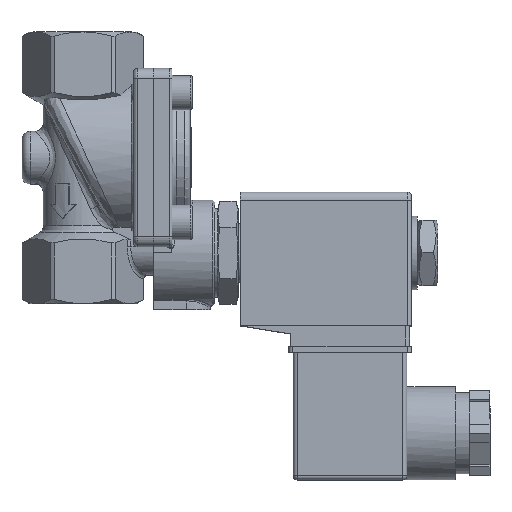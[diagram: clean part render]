
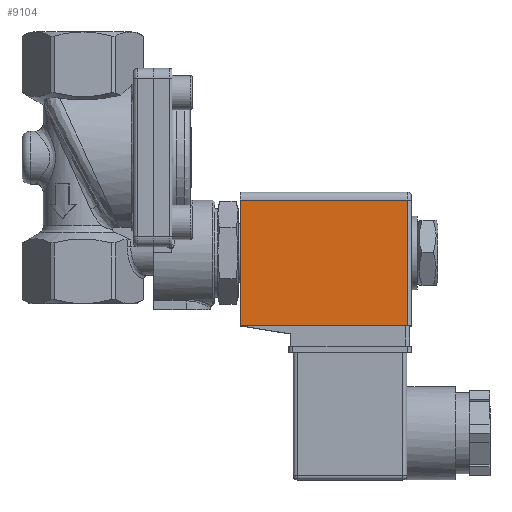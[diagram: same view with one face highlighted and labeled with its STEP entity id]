
A CAD part, top view. The second image highlights one B-rep face of the part: STEP entity #9104.
In plain terms, the highlighted planar face has unit normal (0, 0, 1) as drawn and (0, -1, 0) by its records, which use the part's own axes.
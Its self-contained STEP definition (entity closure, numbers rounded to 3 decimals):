
#8787=CARTESIAN_POINT('',(18.,-14.5,41.3));
#8788=VERTEX_POINT('',#8787);
#8806=CARTESIAN_POINT('',(-13.,-14.5,41.3));
#8807=VERTEX_POINT('',#8806);
#8815=CARTESIAN_POINT('',(-13.,-14.5,41.3));
#8816=DIRECTION('',(1.0,0.0,0.0));
#8817=VECTOR('',#8816,31.0);
#8818=LINE('',#8815,#8817);
#8819=EDGE_CURVE('',#8807,#8788,#8818,.T.);
#9074=CARTESIAN_POINT('',(18.,-14.5,0.0));
#9075=DIRECTION('',(0.0,-1.0,0.0));
#9076=DIRECTION('',(0.0,0.0,-1.0));
#9077=AXIS2_PLACEMENT_3D('',#9074,#9075,#9076);
#9078=PLANE('',#9077);
#9079=ORIENTED_EDGE('',*,*,#8819,.F.);
#9080=CARTESIAN_POINT('',(-13.,-14.5,0.0));
#9081=VERTEX_POINT('',#9080);
#9082=CARTESIAN_POINT('',(-13.,-14.5,0.0));
#9083=DIRECTION('',(0.0,0.0,1.0));
#9084=VECTOR('',#9083,41.3);
#9085=LINE('',#9082,#9084);
#9086=EDGE_CURVE('',#9081,#8807,#9085,.T.);
#9087=ORIENTED_EDGE('',*,*,#9086,.F.);
#9088=CARTESIAN_POINT('',(18.,-14.5,0.0));
#9089=VERTEX_POINT('',#9088);
#9090=CARTESIAN_POINT('',(-13.,-14.5,0.0));
#9091=DIRECTION('',(1.0,0.0,0.0));
#9092=VECTOR('',#9091,31.0);
#9093=LINE('',#9090,#9092);
#9094=EDGE_CURVE('',#9081,#9089,#9093,.T.);
#9095=ORIENTED_EDGE('',*,*,#9094,.T.);
#9096=CARTESIAN_POINT('',(18.,-14.5,0.0));
#9097=DIRECTION('',(0.0,0.0,1.0));
#9098=VECTOR('',#9097,41.3);
#9099=LINE('',#9096,#9098);
#9100=EDGE_CURVE('',#9089,#8788,#9099,.T.);
#9101=ORIENTED_EDGE('',*,*,#9100,.T.);
#9102=EDGE_LOOP('',(#9079,#9087,#9095,#9101));
#9103=FACE_OUTER_BOUND('',#9102,.T.);
#9104=ADVANCED_FACE('',(#9103),#9078,.T.);
